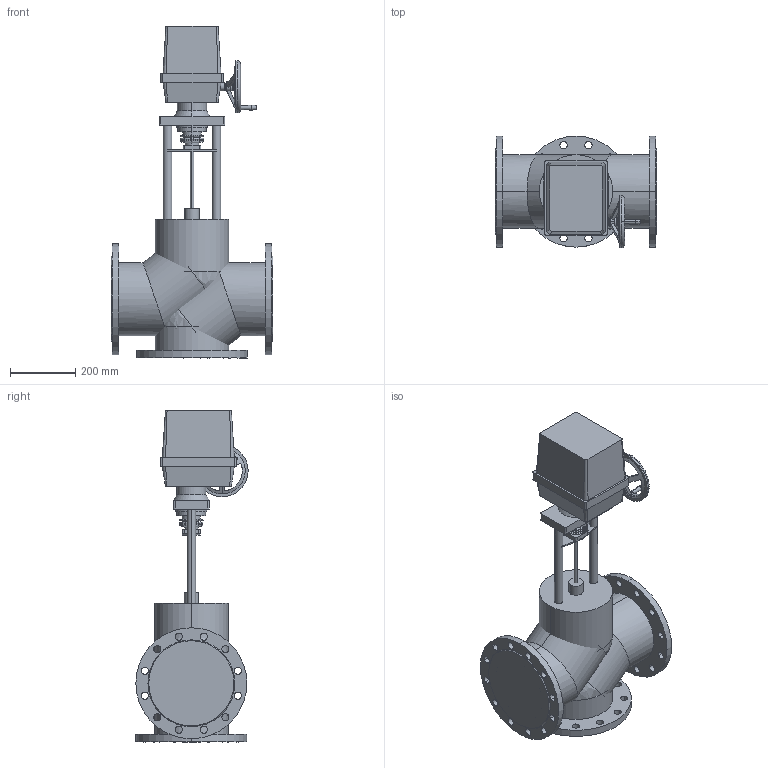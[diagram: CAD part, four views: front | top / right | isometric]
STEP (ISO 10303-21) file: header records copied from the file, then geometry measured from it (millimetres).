
FILE_DESCRIPTION(/* description */ (''),/* implementation_level */ '2;1');
FILE_NAME(/* name */ 'ТРК DN200 PN 1.6 МПа Regada ST2',/* time_stamp */ '2026-07-14T23:14:38+03:00',/* author */ (''),/* organization */ (''),/* preprocessor_version */ 'ST-DEVELOPER v20',/* originating_system */ '',/* authorisation */ '');
FILE_SCHEMA (('AP242_MANAGED_MODEL_BASED_3D_ENGINEERING_MIM_LF { 1 0 10303 442 1 1 4 }'));
Length unit declared in the file: millimetre
Products named in the file (13): TopLevelAssembly; Выдавливание; Модификатор; Модификатор_1; Выдавливание_
1; Выдавливание_
2; Вращение; Выдавливание_
3; Выдавливание_
4; Привод_Regada ST 2; Переход; Объемная геометрия 
присоединена; Объемная геометрия 
присоединена_1
Assembly tree (12 placements, depth 2):
  TopLevelAssembly
    Выдавливание
    Модификатор
    Модификатор_1
    Выдавливание_
1
    Выдавливание_
2
    Вращение
    Выдавливание_
3
    Выдавливание_
4
    Привод_Regada ST 2
    Переход
    Объемная геометрия 
присоединена
    Объемная геометрия 
присоединена_1
Bounding box: 495 x 343.99 x 1017 mm (x, y, z)
Volume: 55308751.9 mm3; surface area: 2514578.3 mm2
Topology: 27 solids, 27 shells, 317 faces, 725 edges, 450 vertices
Faces by surface type: cylinder 154, plane 103, bspline 56, cone 4
Entity records: 10547 total; most frequent: CARTESIAN_POINT 2627, DIRECTION 1652, ORIENTED_EDGE 1430, EDGE_CURVE 715, AXIS2_PLACEMENT_3D 675, VERTEX_POINT 450, EDGE_LOOP 399, CIRCLE 381
